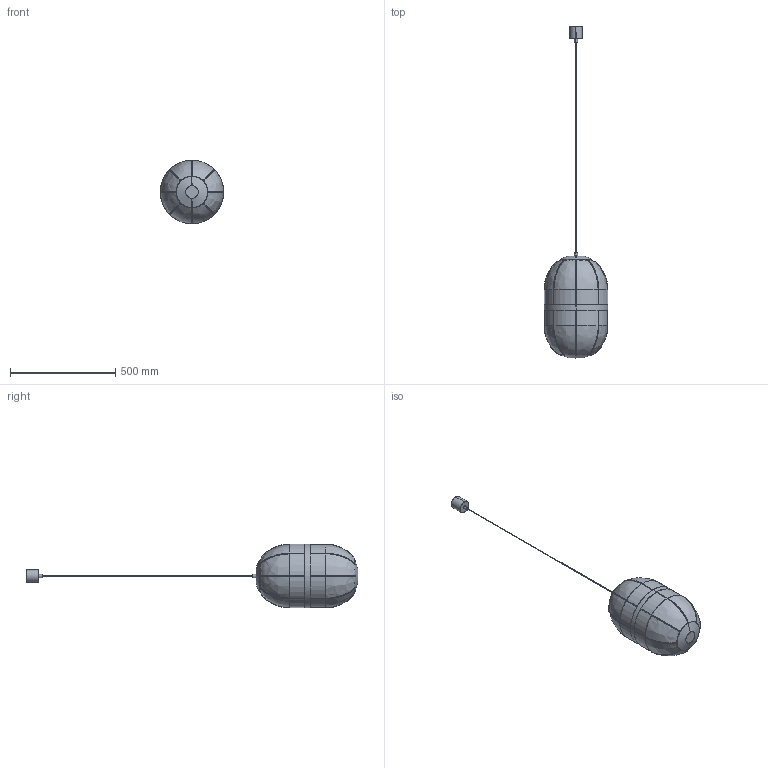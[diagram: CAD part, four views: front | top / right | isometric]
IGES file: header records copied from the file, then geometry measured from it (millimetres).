
Start section: SolidWorks IGES file using analytic representation for surfaces
Global section: file name: C:\Users\Agustin\Desktop\ENERO 2025\PIE PANTALLA TELA\PULL_C1249.IGS; native system: SolidWorks 2018; preprocessor: SolidWorks 2018; author: Agustin; date: 250305.173900; units: millimetre
Bounding box: 303 x 1580 x 303 mm (x, y, z)
Surface area: 964526.3 mm2 (no closed solid volume)
Topology: 0 solids, 0 shells, 208 faces, 3602 edges, 3590 vertices
Faces by surface type: bspline 146, revolution 62
